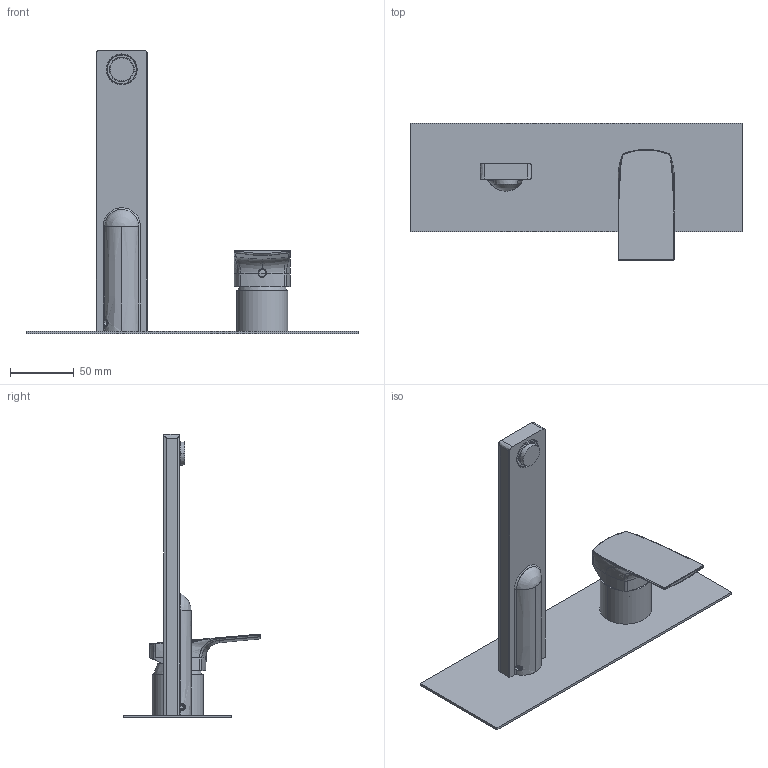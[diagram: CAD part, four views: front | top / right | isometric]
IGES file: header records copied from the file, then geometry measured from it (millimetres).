
Start section:  PTC IGES file: 75548A.igs
Global section: file name: 75548A.igs; native system: Creo Parametric by PTC Inc.; preprocessor: 2025443; author: carloff; organization: Unknown; date: 20261008.101005; units: millimetre
Bounding box: 260 x 107.5 x 222 mm (x, y, z)
Surface area: 122115.4 mm2 (no closed solid volume)
Topology: 0 solids, 0 shells, 937 faces, 5289 edges, 5280 vertices
Faces by surface type: revolution 531, bspline 406
